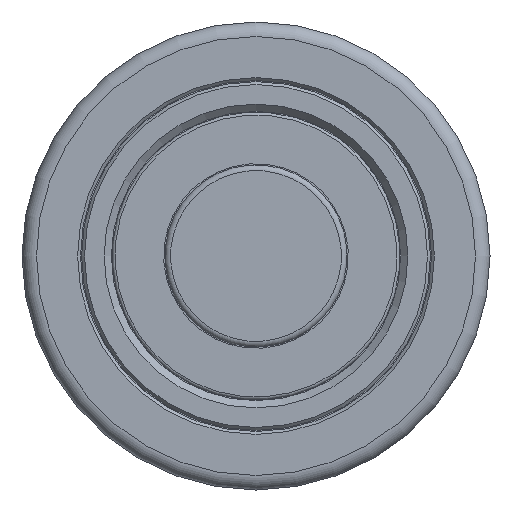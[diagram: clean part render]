
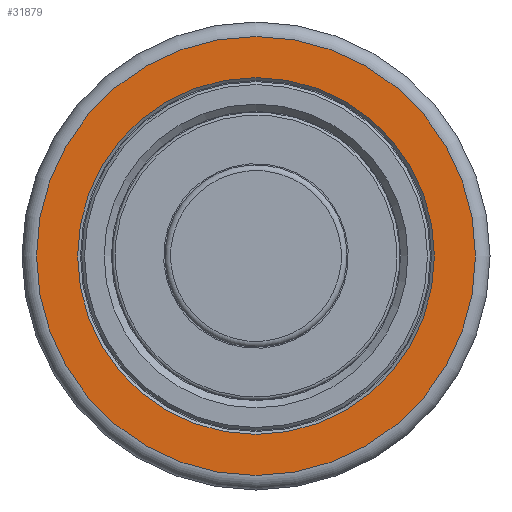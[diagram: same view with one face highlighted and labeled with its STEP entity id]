
A CAD part, front view. The second image highlights one B-rep face of the part: STEP entity #31879.
In plain terms, the highlighted planar face has unit normal (0, -1, 0).
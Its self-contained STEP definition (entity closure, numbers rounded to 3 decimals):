
#1552=PLANE('',#33036);
#1668=FACE_BOUND('',#7242,.T.);
#5523=FACE_OUTER_BOUND('',#7241,.T.);
#7241=EDGE_LOOP('',(#28438));
#7242=EDGE_LOOP('',(#28439));
#11418=CIRCLE('',#33032,15.1);
#11422=CIRCLE('',#33037,12.275);
#14516=VERTEX_POINT('',#70837);
#14519=VERTEX_POINT('',#70845);
#19161=EDGE_CURVE('',#14516,#14516,#11418,.T.);
#19165=EDGE_CURVE('',#14519,#14519,#11422,.T.);
#28438=ORIENTED_EDGE('',*,*,#19161,.F.);
#28439=ORIENTED_EDGE('',*,*,#19165,.F.);
#31879=ADVANCED_FACE('',(#5523,#1668),#1552,.T.);
#33032=AXIS2_PLACEMENT_3D('',#70838,#37107,#37108);
#33036=AXIS2_PLACEMENT_3D('',#70844,#37115,#37116);
#33037=AXIS2_PLACEMENT_3D('',#70846,#37117,#37118);
#37107=DIRECTION('center_axis',(0.,1.,0.));
#37108=DIRECTION('ref_axis',(0.,0.,
1.));
#37115=DIRECTION('center_axis',(0.,-1.,0.));
#37116=DIRECTION('ref_axis',(1.,0.,0.));
#37117=DIRECTION('center_axis',(0.,-1.,0.));
#37118=DIRECTION('ref_axis',(0.,0.,
1.));
#70837=CARTESIAN_POINT('',(-15.1,-24.692,0.));
#70838=CARTESIAN_POINT('Origin',(0.,-24.692,
0.));
#70844=CARTESIAN_POINT('Origin',(0.,-24.692,
-12.075));
#70845=CARTESIAN_POINT('',(0.,-24.692,-12.275));
#70846=CARTESIAN_POINT('Origin',(0.,-24.692,
0.));
